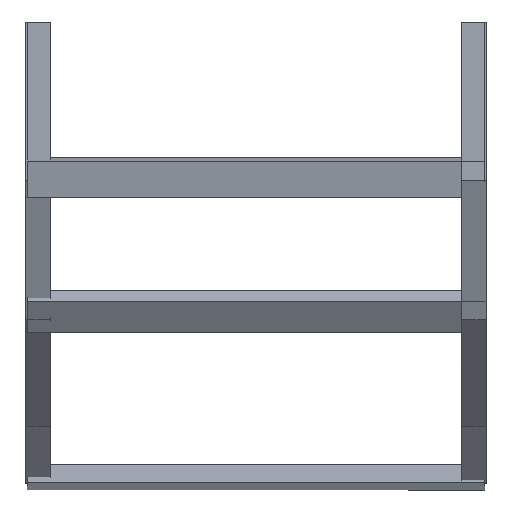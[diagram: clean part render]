
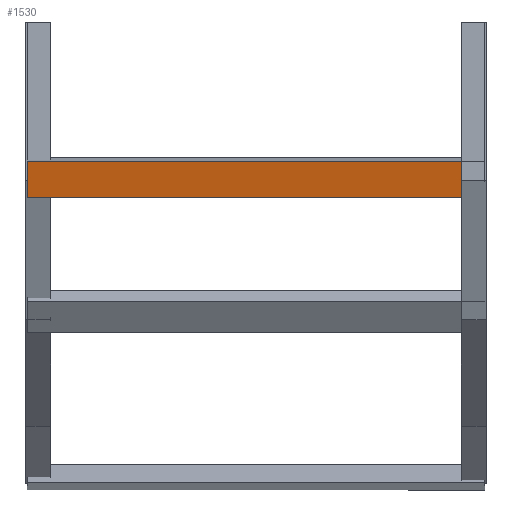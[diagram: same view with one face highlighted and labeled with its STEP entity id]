
A CAD part, front view. The second image highlights one B-rep face of the part: STEP entity #1530.
In plain terms, the highlighted planar face has unit normal (0, -0.981, -0.195) as drawn and (0, -1, 0) by its records, which use the part's own axes.
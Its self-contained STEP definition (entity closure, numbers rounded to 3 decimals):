
#10 = VERTEX_POINT ( 'NONE', #1288 ) ;
#16 = DIRECTION ( 'NONE',  ( 0., 1., 0. ) ) ;
#57 = VECTOR ( 'NONE', #343, 1000. ) ;
#210 = LINE ( 'NONE', #830, #1028 ) ;
#247 = DIRECTION ( 'NONE',  ( -1., 0., 0. ) ) ;
#301 = CARTESIAN_POINT ( 'NONE',  ( 248., 0., 20.25 ) ) ;
#343 = DIRECTION ( 'NONE',  ( 0., 0., -1. ) ) ;
#434 = ORIENTED_EDGE ( 'NONE', *, *, #1066, .F. ) ;
#447 = FACE_OUTER_BOUND ( 'NONE', #1736, .T. ) ;
#538 = VECTOR ( 'NONE', #1019, 1000. ) ;
#584 = LINE ( 'NONE', #1570, #538 ) ;
#604 = DIRECTION ( 'NONE',  ( 0., 0., 1. ) ) ;
#698 = AXIS2_PLACEMENT_3D ( 'NONE', #301, #16, #604 ) ;
#830 = CARTESIAN_POINT ( 'NONE',  ( 248., 0., -20.25 ) ) ;
#856 = CARTESIAN_POINT ( 'NONE',  ( 248., 0., 20.25 ) ) ;
#872 = ORIENTED_EDGE ( 'NONE', *, *, #1536, .F. ) ;
#903 = EDGE_CURVE ( 'NONE', #1853, #1484, #584, .T. ) ;
#921 = CARTESIAN_POINT ( 'NONE',  ( -248., 0., 20.25 ) ) ;
#925 = DIRECTION ( 'NONE',  ( -1., 0., 0. ) ) ;
#1019 = DIRECTION ( 'NONE',  ( 0., 0., -1. ) ) ;
#1026 = PLANE ( 'NONE',  #698 ) ;
#1028 = VECTOR ( 'NONE', #925, 1000. ) ;
#1066 = EDGE_CURVE ( 'NONE', #10, #1543, #1786, .T. ) ;
#1082 = CARTESIAN_POINT ( 'NONE',  ( 248., 0., -20.25 ) ) ;
#1265 = LINE ( 'NONE', #856, #1687 ) ;
#1288 = CARTESIAN_POINT ( 'NONE',  ( 248., 0., 20.25 ) ) ;
#1313 = CARTESIAN_POINT ( 'NONE',  ( -248., 0., -20.25 ) ) ;
#1358 = ORIENTED_EDGE ( 'NONE', *, *, #903, .T. ) ;
#1370 = EDGE_CURVE ( 'NONE', #10, #1853, #1265, .T. ) ;
#1484 = VERTEX_POINT ( 'NONE', #1313 ) ;
#1530 = ADVANCED_FACE ( 'NONE', ( #447 ), #1026, .F. ) ;
#1536 = EDGE_CURVE ( 'NONE', #1543, #1484, #210, .T. ) ;
#1543 = VERTEX_POINT ( 'NONE', #1082 ) ;
#1570 = CARTESIAN_POINT ( 'NONE',  ( -248., 0., 20.25 ) ) ;
#1587 = ORIENTED_EDGE ( 'NONE', *, *, #1370, .T. ) ;
#1687 = VECTOR ( 'NONE', #247, 1000. ) ;
#1736 = EDGE_LOOP ( 'NONE', ( #1358, #872, #434, #1587 ) ) ;
#1786 = LINE ( 'NONE', #1804, #57 ) ;
#1804 = CARTESIAN_POINT ( 'NONE',  ( 248., 0., 20.25 ) ) ;
#1853 = VERTEX_POINT ( 'NONE', #921 ) ;
